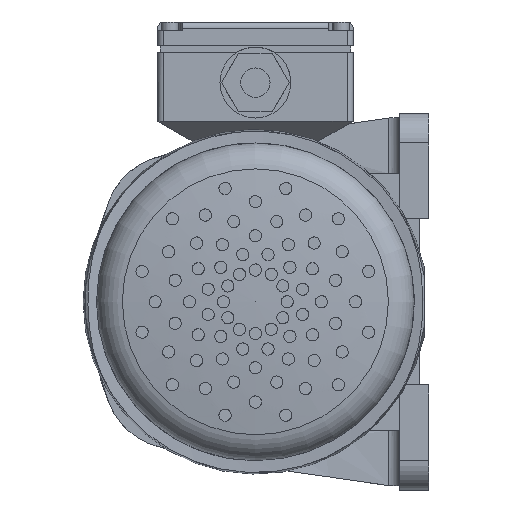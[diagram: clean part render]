
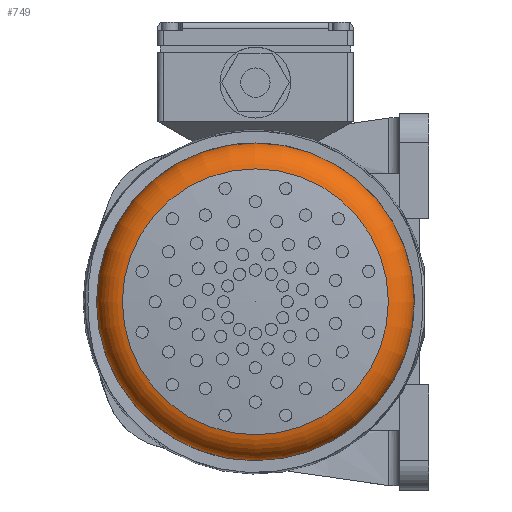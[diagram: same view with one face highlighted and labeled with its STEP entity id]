
A CAD part, left-side view. The second image highlights one B-rep face of the part: STEP entity #749.
In plain terms, the highlighted toroidal (fillet/blend) face has major radius 52.5 mm and minor radius 12.5 mm.
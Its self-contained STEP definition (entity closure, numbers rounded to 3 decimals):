
#749 = ADVANCED_FACE( '', ( #1984, #1985 ), #1986, .T. );
#1984 = FACE_OUTER_BOUND( '', #3588, .T. );
#1985 = FACE_OUTER_BOUND( '', #3589, .T. );
#1986 = TOROIDAL_SURFACE( '', #3590, 52.5, 12.5 );
#3588 = EDGE_LOOP( '', ( #7772 ) );
#3589 = EDGE_LOOP( '', ( #7773 ) );
#3590 = AXIS2_PLACEMENT_3D( '', #7774, #7775, #7776 );
#7772 = ORIENTED_EDGE( '', *, *, #10345, .T. );
#7773 = ORIENTED_EDGE( '', *, *, #10303, .F. );
#7774 = CARTESIAN_POINT( '', ( -88.443, 0., 0. ) );
#7775 = DIRECTION( '', ( 1., 0., 0. ) );
#7776 = DIRECTION( '', ( 0., 0., -1. ) );
#10303 = EDGE_CURVE( '', #12564, #12564, #12565, .T. );
#10345 = EDGE_CURVE( '', #12645, #12645, #12646, .T. );
#12564 = VERTEX_POINT( '', #16671 );
#12565 = CIRCLE( '', #16672, 65. );
#12645 = VERTEX_POINT( '', #19079 );
#12646 = CIRCLE( '', #19080, 54.42 );
#16671 = CARTESIAN_POINT( '', ( -88.443, 0., -65. ) );
#16672 = AXIS2_PLACEMENT_3D( '', #23959, #23960, #23961 );
#19079 = CARTESIAN_POINT( '', ( -100.795, 0., -54.42 ) );
#19080 = AXIS2_PLACEMENT_3D( '', #23965, #23966, #23967 );
#23959 = CARTESIAN_POINT( '', ( -88.443, 0., 0. ) );
#23960 = DIRECTION( '', ( 1., 0., 0. ) );
#23961 = DIRECTION( '', ( 0., 0., -1. ) );
#23965 = CARTESIAN_POINT( '', ( -100.795, 0., 0. ) );
#23966 = DIRECTION( '', ( 1., 0., 0. ) );
#23967 = DIRECTION( '', ( 0., 0., -1. ) );
